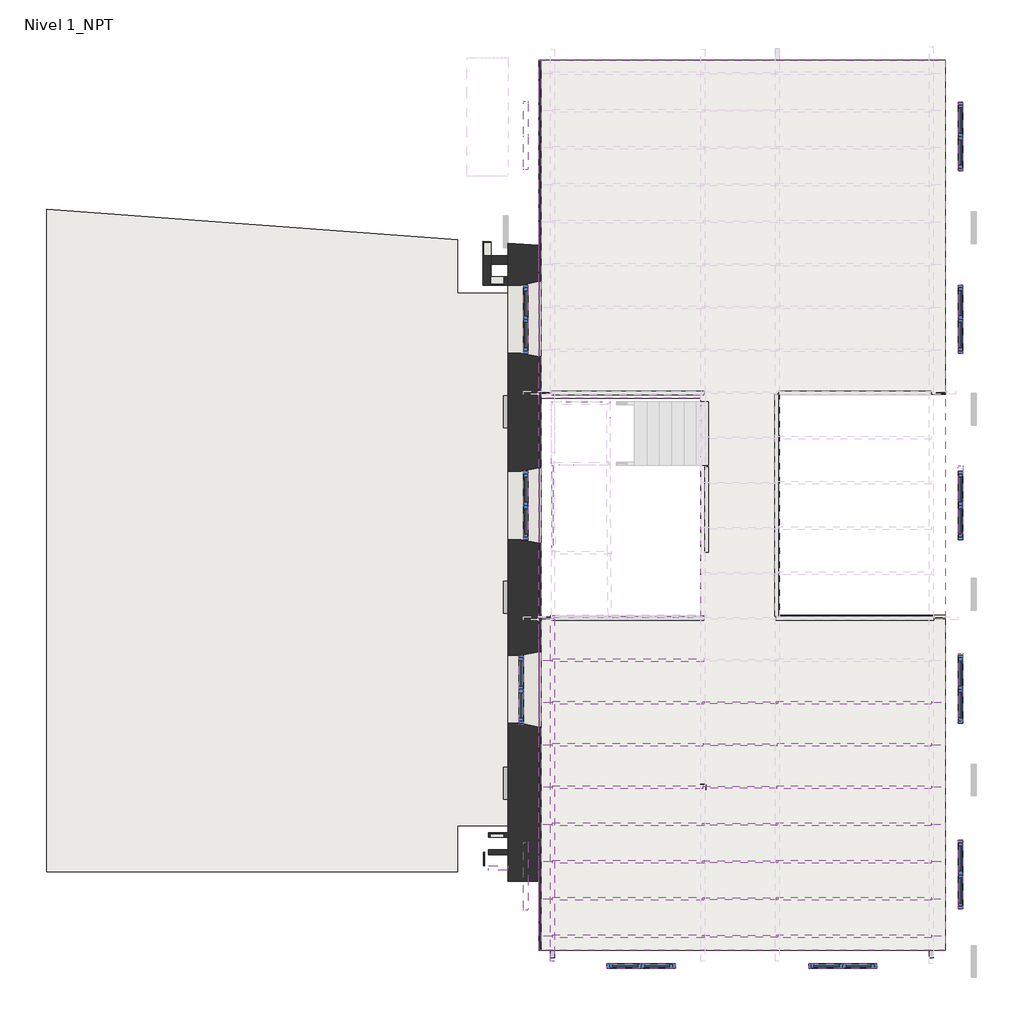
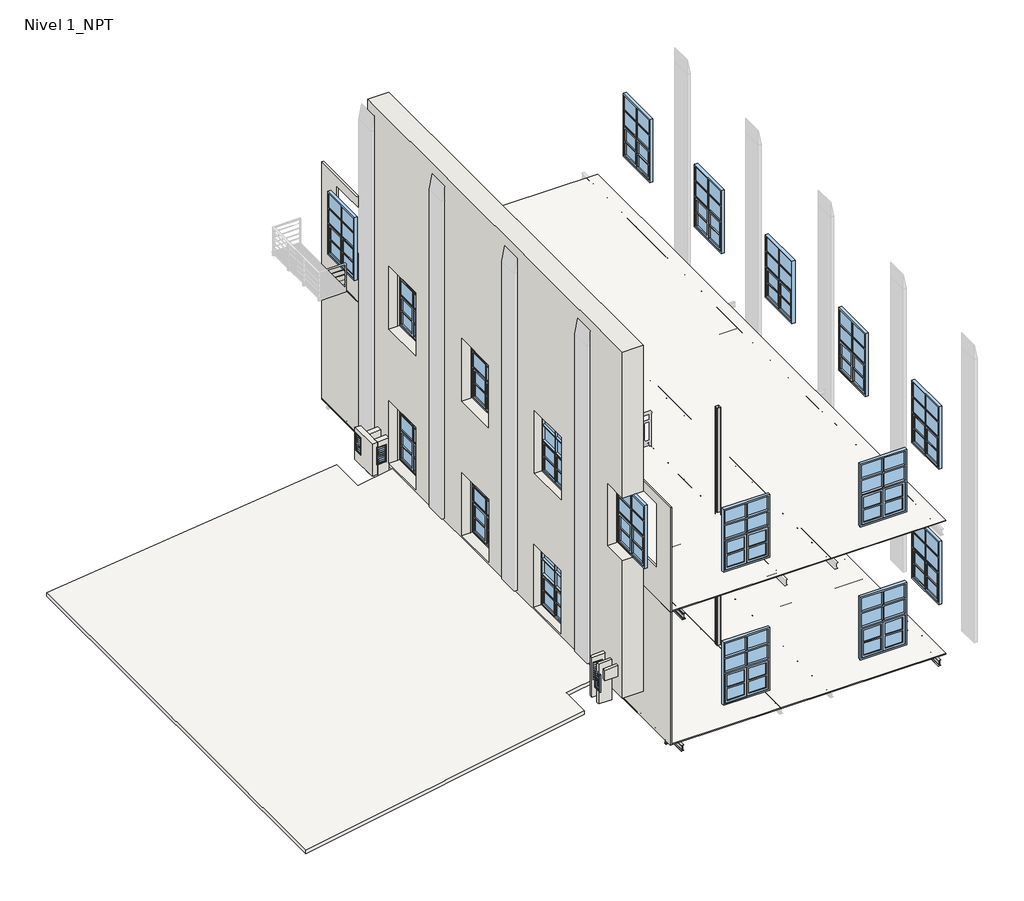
# One storey, part 1 of 6: 65 beams, 26 windows, 9 walls, 2 slabs, 1 column, 1 roof.
"""IFC4 building model written with IfcOpenShell, lengths in millimetres."""

from ifc_helpers import new_model, si_unit, frame, origin, place, context, project, spatial, polyline, outline, extrude, faceted_brep, transform, mapped, element, save
from components import beam_0fa59555, beam_4ebdabfa, est_perf_ace_est_perf_ace_652393f0, est_vi_ipn_140_83a7d586, est_vi_ipn_140_513cc523, est_vi_ipn_140_41f6773e, est_vi_ipn_140_ac4d03ab, ipn_140_a066fb9f, ipn_140_dce53db5, ipn_140_6146be9b, ipn_140_d8756bba, ipn_140_57c813fd, ipn_140_c3178bab, ipn_140_a4fef78c, ipn_140_1e7c6f62, ipn_140_43540bf7, ipn_140_55316688, ipn_140_ba8e37ef, ipn_140_681980e7, ipn_200_907417d8, ipn_200_73b08ae7, ipn_200_549c2b5a, ipn_80_bbd9ff88, ipn_80_60352559, ipn_80_ac8313dd, ipn_80_3470acd9, ipn_80_19f47b9d, ipn_80_ebfddedf, perfiles_escalera1_perfiles_escalera_c1f6a450, column_120_x_120shs_173fb2dc, window_49d07148, window_b09a553c, window_13db4c4f, window_c40e4f47

model = new_model("IFC4")

# Units and contexts
model_context = context("Model", 3, world=origin())
ifc_project = project(units=[si_unit("LENGTHUNIT", "METRE", prefix="MILLI")], contexts=[model_context])

# Site, building, storey
site = spatial("IfcSite", under=ifc_project)
building = spatial("IfcBuilding", under=site)
storey = spatial("IfcBuildingStorey", under=building, Name="Nivel 1_NPT", Elevation=4940.0)

# Beams
placement = place(None, origin())
beam_shape = beam_0fa59555(model_context)
element("IfcBeam", 1, ObjectType="Armazón estructural 2 : Armazón estructural 1", at=placement, inside=storey, context=model_context, shape_type="MappedRepresentation", body=[
    mapped(beam_shape, transform((0.0, 0.0, 0.0), x_axis=(1.0, 0.0, 0.0), y_axis=(0.0, 1.0, 0.0), z_axis=(0.0, 0.0, 1.0))),
])
beam_2_shape = beam_4ebdabfa(model_context)
element("IfcBeam", 2, ObjectType="Armazón estructural 8 : Armazón estructural 7", at=placement, inside=storey, context=model_context, shape_type="MappedRepresentation", body=[
    mapped(beam_2_shape, transform((0.0, 0.0, 0.0), x_axis=(1.0, 0.0, 0.0), y_axis=(0.0, 1.0, 0.0), z_axis=(0.0, 0.0, 1.0))),
])
est_perf_ace_est_perf_ace_shape = est_perf_ace_est_perf_ace_652393f0(model_context)
element("IfcBeam", 3, ObjectType="EST-PERF-Ace : EST-PERF-Ace", at=placement, inside=storey, context=model_context, shape_type="MappedRepresentation", body=[
    mapped(est_perf_ace_est_perf_ace_shape, transform((6334.8126262, 556.847353, 9500.0), x_axis=(0.0, 1.0, 0.0), y_axis=(-1.0, 0.0, 0.0), z_axis=(0.0, 0.0, 1.0))),
])
element("IfcBeam", 4, ObjectType="EST-PERF-Ace : EST-PERF-Ace", at=placement, inside=storey, context=model_context, shape_type="MappedRepresentation", body=[
    mapped(est_perf_ace_est_perf_ace_shape, transform((6334.8126262, -370.8993556, 9500.0), x_axis=(0.0, 1.0, 0.0), y_axis=(-1.0, 0.0, 0.0), z_axis=(0.0, 0.0, 1.0))),
])
element("IfcBeam", 5, ObjectType="EST-PERF-Ace : EST-PERF-Ace", at=placement, inside=storey, context=model_context, shape_type="MappedRepresentation", body=[
    mapped(est_perf_ace_est_perf_ace_shape, transform((6334.8126262, -1298.6460641, 9500.0), x_axis=(0.0, 1.0, 0.0), y_axis=(-1.0, 0.0, 0.0), z_axis=(0.0, 0.0, 1.0))),
])
element("IfcBeam", 6, ObjectType="EST-PERF-Ace : EST-PERF-Ace", at=placement, inside=storey, context=model_context, shape_type="MappedRepresentation", body=[
    mapped(est_perf_ace_est_perf_ace_shape, transform((6334.8126262, -2226.3927727, 9500.0), x_axis=(0.0, 1.0, 0.0), y_axis=(-1.0, 0.0, 0.0), z_axis=(0.0, 0.0, 1.0))),
])
element("IfcBeam", 7, ObjectType="EST-PERF-Ace : EST-PERF-Ace", at=placement, inside=storey, context=model_context, shape_type="MappedRepresentation", body=[
    mapped(est_perf_ace_est_perf_ace_shape, transform((6334.8126262, -3044.1427727, 9500.0), x_axis=(0.0, 1.0, 0.0), y_axis=(-1.0, 0.0, 0.0), z_axis=(0.0, 0.0, 1.0))),
])
element("IfcBeam", 8, ObjectType="EST-PERF-Ace : EST-PERF-Ace", at=placement, inside=storey, context=model_context, shape_type="MappedRepresentation", body=[
    mapped(est_perf_ace_est_perf_ace_shape, transform((6334.8126262, -3861.8927727, 9500.0), x_axis=(0.0, 1.0, 0.0), y_axis=(-1.0, 0.0, 0.0), z_axis=(0.0, 0.0, 1.0))),
])
element("IfcBeam", 9, ObjectType="EST-PERF-Ace : EST-PERF-Ace", at=placement, inside=storey, context=model_context, shape_type="MappedRepresentation", body=[
    mapped(est_perf_ace_est_perf_ace_shape, transform((6334.8126262, -4679.6427727, 9500.0), x_axis=(0.0, 1.0, 0.0), y_axis=(-1.0, 0.0, 0.0), z_axis=(0.0, 0.0, 1.0))),
])
element("IfcBeam", 10, ObjectType="EST-PERF-Ace : EST-PERF-Ace", at=placement, inside=storey, context=model_context, shape_type="MappedRepresentation", body=[
    mapped(est_perf_ace_est_perf_ace_shape, transform((6334.8126262, -5497.3927727, 9500.0), x_axis=(0.0, 1.0, 0.0), y_axis=(-1.0, 0.0, 0.0), z_axis=(0.0, 0.0, 1.0))),
])
element("IfcBeam", 11, ObjectType="EST-PERF-Ace : EST-PERF-Ace", at=placement, inside=storey, context=model_context, shape_type="MappedRepresentation", body=[
    mapped(est_perf_ace_est_perf_ace_shape, transform((14664.8126262, -5497.3927727, 9500.0), x_axis=(0.0, -1.0, 0.0), y_axis=(1.0, 0.0, 0.0), z_axis=(0.0, 0.0, 1.0))),
])
element("IfcBeam", 12, ObjectType="EST-PERF-Ace : EST-PERF-Ace", at=placement, inside=storey, context=model_context, shape_type="MappedRepresentation", body=[
    mapped(est_perf_ace_est_perf_ace_shape, transform((14664.8126262, -4679.6427727, 9500.0), x_axis=(0.0, -1.0, 0.0), y_axis=(1.0, 0.0, 0.0), z_axis=(0.0, 0.0, 1.0))),
])
element("IfcBeam", 13, ObjectType="EST-PERF-Ace : EST-PERF-Ace", at=placement, inside=storey, context=model_context, shape_type="MappedRepresentation", body=[
    mapped(est_perf_ace_est_perf_ace_shape, transform((14664.8126262, -3861.8927727, 9500.0), x_axis=(0.0, -1.0, 0.0), y_axis=(1.0, 0.0, 0.0), z_axis=(0.0, 0.0, 1.0))),
])
element("IfcBeam", 14, ObjectType="EST-PERF-Ace : EST-PERF-Ace", at=placement, inside=storey, context=model_context, shape_type="MappedRepresentation", body=[
    mapped(est_perf_ace_est_perf_ace_shape, transform((14664.8126262, -3044.1427727, 9500.0), x_axis=(0.0, -1.0, 0.0), y_axis=(1.0, 0.0, 0.0), z_axis=(0.0, 0.0, 1.0))),
])
element("IfcBeam", 15, ObjectType="EST-PERF-Ace : EST-PERF-Ace", at=placement, inside=storey, context=model_context, shape_type="MappedRepresentation", body=[
    mapped(est_perf_ace_est_perf_ace_shape, transform((14664.8126262, -2226.3927727, 9500.0), x_axis=(0.0, -1.0, 0.0), y_axis=(1.0, 0.0, 0.0), z_axis=(0.0, 0.0, 1.0))),
])
element("IfcBeam", 16, ObjectType="EST-PERF-Ace : EST-PERF-Ace", at=placement, inside=storey, context=model_context, shape_type="MappedRepresentation", body=[
    mapped(est_perf_ace_est_perf_ace_shape, transform((14664.8126262, -1298.6460641, 9500.0), x_axis=(0.0, -1.0, 0.0), y_axis=(1.0, 0.0, 0.0), z_axis=(0.0, 0.0, 1.0))),
])
element("IfcBeam", 17, ObjectType="EST-PERF-Ace : EST-PERF-Ace", at=placement, inside=storey, context=model_context, shape_type="MappedRepresentation", body=[
    mapped(est_perf_ace_est_perf_ace_shape, transform((14664.8126262, -370.8993556, 9500.0), x_axis=(0.0, -1.0, 0.0), y_axis=(1.0, 0.0, 0.0), z_axis=(0.0, 0.0, 1.0))),
])
est_vi_ipn_140_shape = est_vi_ipn_140_83a7d586(model_context)
element("IfcBeam", 18, ObjectType="EST-VI-PNI-Acero : EST-VI-IPN 140", at=placement, inside=storey, context=model_context, shape_type="MappedRepresentation", body=[
    mapped(est_vi_ipn_140_shape, transform((7973.3126262, -5497.3927727, 4840.0), x_axis=(1.0, 0.0, 0.0), y_axis=(0.0, 1.0, 0.0), z_axis=(0.0, 0.0, 1.0))),
])
est_vi_ipn_140_2_shape = est_vi_ipn_140_513cc523(model_context)
element("IfcBeam", 19, ObjectType="EST-VI-PNI-Acero : EST-VI-IPN 140", at=placement, inside=storey, context=model_context, shape_type="MappedRepresentation", body=[
    mapped(est_vi_ipn_140_2_shape, transform((7989.8126262, -5497.3927727, 9400.0), x_axis=(1.0, 0.0, 0.0), y_axis=(0.0, 1.0, 0.0), z_axis=(0.0, 0.0, 1.0))),
])
est_vi_ipn_140_3_shape = est_vi_ipn_140_41f6773e(model_context)
element("IfcBeam", 20, ObjectType="EST-VI-PNI-Acero : EST-VI-IPN 140", at=placement, inside=storey, context=model_context, shape_type="MappedRepresentation", body=[
    mapped(est_vi_ipn_140_3_shape, transform((12969.8126262, -5497.3927727, 9400.0), x_axis=(1.0, 0.0, 0.0), y_axis=(0.0, 1.0, 0.0), z_axis=(0.0, 0.0, 1.0))),
])
est_vi_ipn_140_4_shape = est_vi_ipn_140_ac4d03ab(model_context)
element("IfcBeam", 21, ObjectType="EST-VI-PNI-Acero : EST-VI-IPN 140", at=placement, inside=storey, context=model_context, shape_type="MappedRepresentation", body=[
    mapped(est_vi_ipn_140_4_shape, transform((12980.8126262, -5497.3927727, 4840.0), x_axis=(1.0, 0.0, 0.0), y_axis=(0.0, 1.0, 0.0), z_axis=(0.0, 0.0, 1.0))),
])
ipn_140_shape = ipn_140_a066fb9f(model_context)
element("IfcBeam", 22, ObjectType="IPN - Secciones en I con alas cónicas : IPN 140", at=placement, inside=storey, context=model_context, shape_type="MappedRepresentation", body=[
    mapped(ipn_140_shape, transform((13119.8126262, -370.8993556, 4840.0), x_axis=(1.0, 0.0, 0.0), y_axis=(0.0, 1.0, 0.0), z_axis=(0.0, 0.0, 1.0))),
])
element("IfcBeam", 23, ObjectType="IPN - Secciones en I con alas cónicas : IPN 140", at=placement, inside=storey, context=model_context, shape_type="MappedRepresentation", body=[
    mapped(ipn_140_shape, transform((13119.8126262, -3861.8927727, 4840.0), x_axis=(1.0, 0.0, 0.0), y_axis=(0.0, 1.0, 0.0), z_axis=(0.0, 0.0, 1.0))),
])
element("IfcBeam", 24, ObjectType="IPN - Secciones en I con alas cónicas : IPN 140", at=placement, inside=storey, context=model_context, shape_type="MappedRepresentation", body=[
    mapped(ipn_140_shape, transform((13119.8126262, -4679.6427727, 4840.0), x_axis=(1.0, 0.0, 0.0), y_axis=(0.0, 1.0, 0.0), z_axis=(0.0, 0.0, 1.0))),
])
ipn_140_2_shape = ipn_140_dce53db5(model_context)
element("IfcBeam", 25, ObjectType="IPN - Secciones en I con alas cónicas : IPN 140", at=placement, inside=storey, context=model_context, shape_type="MappedRepresentation", body=[
    mapped(ipn_140_2_shape, transform((7904.8126262, 556.847353, 4840.0), x_axis=(1.0, 0.0, 0.0), y_axis=(0.0, 1.0, 0.0), z_axis=(0.0, 0.0, 1.0))),
])
element("IfcBeam", 26, ObjectType="IPN - Secciones en I con alas cónicas : IPN 140", at=placement, inside=storey, context=model_context, shape_type="MappedRepresentation", body=[
    mapped(ipn_140_2_shape, transform((7904.8126262, -370.8993556, 4840.0), x_axis=(1.0, 0.0, 0.0), y_axis=(0.0, 1.0, 0.0), z_axis=(0.0, 0.0, 1.0))),
])
element("IfcBeam", 27, ObjectType="IPN - Secciones en I con alas cónicas : IPN 140", at=placement, inside=storey, context=model_context, shape_type="MappedRepresentation", body=[
    mapped(ipn_140_2_shape, transform((7904.8126262, -3861.8927727, 4840.0), x_axis=(1.0, 0.0, 0.0), y_axis=(0.0, 1.0, 0.0), z_axis=(0.0, 0.0, 1.0))),
])
element("IfcBeam", 28, ObjectType="IPN - Secciones en I con alas cónicas : IPN 140", at=placement, inside=storey, context=model_context, shape_type="MappedRepresentation", body=[
    mapped(ipn_140_2_shape, transform((7904.8126262, -4679.6427727, 4840.0), x_axis=(1.0, 0.0, 0.0), y_axis=(0.0, 1.0, 0.0), z_axis=(0.0, 0.0, 1.0))),
])
ipn_140_3_shape = ipn_140_6146be9b(model_context)
element("IfcBeam", 29, ObjectType="IPN - Secciones en I con alas cónicas : IPN 140", at=placement, inside=storey, context=model_context, shape_type="MappedRepresentation", body=[
    mapped(ipn_140_3_shape, transform((7904.8126262, -1298.6460641, 4840.0), x_axis=(1.0, 0.0, 0.0), y_axis=(0.0, 1.0, 0.0), z_axis=(0.0, 0.0, 1.0))),
])
ipn_140_4_shape = ipn_140_d8756bba(model_context)
element("IfcBeam", 30, ObjectType="IPN - Secciones en I con alas cónicas : IPN 140", at=placement, inside=storey, context=model_context, shape_type="MappedRepresentation", body=[
    mapped(ipn_140_4_shape, transform((13119.8126262, -1298.6460641, 4840.0), x_axis=(1.0, 0.0, 0.0), y_axis=(0.0, 1.0, 0.0), z_axis=(0.0, 0.0, 1.0))),
])
ipn_140_5_shape = ipn_140_57c813fd(model_context)
element("IfcBeam", 31, ObjectType="IPN - Secciones en I con alas cónicas : IPN 140", at=placement, inside=storey, context=model_context, shape_type="MappedRepresentation", body=[
    mapped(ipn_140_5_shape, transform((7904.8126262, -3044.1427727, 4840.0), x_axis=(1.0, 0.0, 0.0), y_axis=(0.0, 1.0, 0.0), z_axis=(0.0, 0.0, 1.0))),
])
ipn_140_6_shape = ipn_140_c3178bab(model_context)
element("IfcBeam", 32, ObjectType="IPN - Secciones en I con alas cónicas : IPN 140", at=placement, inside=storey, context=model_context, shape_type="MappedRepresentation", body=[
    mapped(ipn_140_6_shape, transform((13119.8126262, -3044.1427727, 4840.0), x_axis=(1.0, 0.0, 0.0), y_axis=(0.0, 1.0, 0.0), z_axis=(0.0, 0.0, 1.0))),
])
ipn_140_7_shape = ipn_140_a4fef78c(model_context)
element("IfcBeam", 33, ObjectType="IPN - Secciones en I con alas cónicas : IPN 140", at=placement, inside=storey, context=model_context, shape_type="MappedRepresentation", body=[
    mapped(ipn_140_7_shape, transform((12980.3951687, -2226.3927727, 4840.0), x_axis=(1.0, 0.0, 0.0), y_axis=(0.0, 1.0, 0.0), z_axis=(0.0, 0.0, 1.0))),
])
ipn_140_8_shape = ipn_140_1e7c6f62(model_context)
element("IfcBeam", 34, ObjectType="IPN - Secciones en I con alas cónicas : IPN 140", at=placement, inside=storey, context=model_context, shape_type="MappedRepresentation", body=[
    mapped(ipn_140_8_shape, transform((7973.3126262, -2226.3927727, 4840.0), x_axis=(1.0, 0.0, 0.0), y_axis=(0.0, 1.0, 0.0), z_axis=(0.0, 0.0, 1.0))),
])
ipn_140_9_shape = ipn_140_43540bf7(model_context)
element("IfcBeam", 35, ObjectType="IPN - Secciones en I con alas cónicas : IPN 140", at=placement, inside=storey, context=model_context, shape_type="MappedRepresentation", body=[
    mapped(ipn_140_9_shape, transform((12962.8126262, -2226.3927727, 9400.0), x_axis=(1.0, 0.0, 0.0), y_axis=(0.0, 1.0, 0.0), z_axis=(0.0, 0.0, 1.0))),
])
element("IfcBeam", 36, ObjectType="IPN - Secciones en I con alas cónicas : IPN 140", at=placement, inside=storey, context=model_context, shape_type="MappedRepresentation", body=[
    mapped(est_vi_ipn_140_2_shape, transform((7989.8126262, 556.847353, 9400.0), x_axis=(1.0, 0.0, 0.0), y_axis=(0.0, 1.0, 0.0), z_axis=(0.0, 0.0, 1.0))),
])
element("IfcBeam", 37, ObjectType="IPN - Secciones en I con alas cónicas : IPN 140", at=placement, inside=storey, context=model_context, shape_type="MappedRepresentation", body=[
    mapped(est_vi_ipn_140_2_shape, transform((7989.8126262, -370.8993556, 9400.0), x_axis=(1.0, 0.0, 0.0), y_axis=(0.0, 1.0, 0.0), z_axis=(0.0, 0.0, 1.0))),
])
element("IfcBeam", 38, ObjectType="IPN - Secciones en I con alas cónicas : IPN 140", at=placement, inside=storey, context=model_context, shape_type="MappedRepresentation", body=[
    mapped(est_vi_ipn_140_2_shape, transform((7989.8126262, -3044.1427727, 9400.0), x_axis=(1.0, 0.0, 0.0), y_axis=(0.0, 1.0, 0.0), z_axis=(0.0, 0.0, 1.0))),
])
element("IfcBeam", 39, ObjectType="IPN - Secciones en I con alas cónicas : IPN 140", at=placement, inside=storey, context=model_context, shape_type="MappedRepresentation", body=[
    mapped(est_vi_ipn_140_2_shape, transform((7989.8126262, -3861.8927727, 9400.0), x_axis=(1.0, 0.0, 0.0), y_axis=(0.0, 1.0, 0.0), z_axis=(0.0, 0.0, 1.0))),
])
element("IfcBeam", 40, ObjectType="IPN - Secciones en I con alas cónicas : IPN 140", at=placement, inside=storey, context=model_context, shape_type="MappedRepresentation", body=[
    mapped(est_vi_ipn_140_2_shape, transform((7989.8126262, -4679.6427727, 9400.0), x_axis=(1.0, 0.0, 0.0), y_axis=(0.0, 1.0, 0.0), z_axis=(0.0, 0.0, 1.0))),
])
ipn_140_10_shape = ipn_140_55316688(model_context)
element("IfcBeam", 41, ObjectType="IPN - Secciones en I con alas cónicas : IPN 140", at=placement, inside=storey, context=model_context, shape_type="MappedRepresentation", body=[
    mapped(ipn_140_10_shape, transform((7989.8126262, -2226.3927727, 9400.0), x_axis=(1.0, 0.0, 0.0), y_axis=(0.0, 1.0, 0.0), z_axis=(0.0, 0.0, 1.0))),
])
ipn_140_11_shape = ipn_140_ba8e37ef(model_context)
element("IfcBeam", 42, ObjectType="IPN - Secciones en I con alas cónicas : IPN 140", at=placement, inside=storey, context=model_context, shape_type="MappedRepresentation", body=[
    mapped(ipn_140_11_shape, transform((7989.8126262, -1298.6460641, 9400.0), x_axis=(1.0, 0.0, 0.0), y_axis=(0.0, 1.0, 0.0), z_axis=(0.0, 0.0, 1.0))),
])
element("IfcBeam", 43, ObjectType="IPN - Secciones en I con alas cónicas : IPN 140", at=placement, inside=storey, context=model_context, shape_type="MappedRepresentation", body=[
    mapped(est_vi_ipn_140_3_shape, transform((12969.8126262, -370.8993556, 9400.0), x_axis=(1.0, 0.0, 0.0), y_axis=(0.0, 1.0, 0.0), z_axis=(0.0, 0.0, 1.0))),
])
element("IfcBeam", 44, ObjectType="IPN - Secciones en I con alas cónicas : IPN 140", at=placement, inside=storey, context=model_context, shape_type="MappedRepresentation", body=[
    mapped(est_vi_ipn_140_3_shape, transform((12969.8126262, -3044.1427727, 9400.0), x_axis=(1.0, 0.0, 0.0), y_axis=(0.0, 1.0, 0.0), z_axis=(0.0, 0.0, 1.0))),
])
element("IfcBeam", 45, ObjectType="IPN - Secciones en I con alas cónicas : IPN 140", at=placement, inside=storey, context=model_context, shape_type="MappedRepresentation", body=[
    mapped(est_vi_ipn_140_3_shape, transform((12969.8126262, -3861.8927727, 9400.0), x_axis=(1.0, 0.0, 0.0), y_axis=(0.0, 1.0, 0.0), z_axis=(0.0, 0.0, 1.0))),
])
element("IfcBeam", 46, ObjectType="IPN - Secciones en I con alas cónicas : IPN 140", at=placement, inside=storey, context=model_context, shape_type="MappedRepresentation", body=[
    mapped(est_vi_ipn_140_3_shape, transform((12969.8126262, -4679.6427727, 9400.0), x_axis=(1.0, 0.0, 0.0), y_axis=(0.0, 1.0, 0.0), z_axis=(0.0, 0.0, 1.0))),
])
ipn_140_12_shape = ipn_140_681980e7(model_context)
element("IfcBeam", 47, ObjectType="IPN - Secciones en I con alas cónicas : IPN 140", at=placement, inside=storey, context=model_context, shape_type="MappedRepresentation", body=[
    mapped(ipn_140_12_shape, transform((12969.8126262, -1298.6460641, 9400.0), x_axis=(1.0, 0.0, 0.0), y_axis=(0.0, 1.0, 0.0), z_axis=(0.0, 0.0, 1.0))),
])
ipn_200_shape = ipn_200_907417d8(model_context)
element("IfcBeam", 48, ObjectType="IPN - Secciones en I con alas cónicas : IPN 200", at=placement, inside=storey, context=model_context, shape_type="MappedRepresentation", body=[
    mapped(ipn_200_shape, transform((6334.8126262, -2235.8997178, 4810.0), x_axis=(0.0, -1.0, 0.0), y_axis=(1.0, 0.0, 0.0), z_axis=(0.0, 0.0, 1.0))),
])
ipn_200_2_shape = ipn_200_73b08ae7(model_context)
element("IfcBeam", 49, ObjectType="IPN - Secciones en I con alas cónicas : IPN 200", at=placement, inside=storey, context=model_context, shape_type="MappedRepresentation", body=[
    mapped(ipn_200_2_shape, transform((6334.8126262, -2006.3993556, 9370.0), x_axis=(0.0, -1.0, 0.0), y_axis=(1.0, 0.0, 0.0), z_axis=(0.0, 0.0, 1.0))),
])
ipn_200_3_shape = ipn_200_549c2b5a(model_context)
element("IfcBeam", 50, ObjectType="IPN - Secciones en I con alas cónicas : IPN 200", at=placement, inside=storey, context=model_context, shape_type="MappedRepresentation", body=[
    mapped(ipn_200_3_shape, transform((14664.8126262, -2005.4059385, 4810.0), x_axis=(0.0, -1.0, 0.0), y_axis=(1.0, 0.0, 0.0), z_axis=(0.0, 0.0, 1.0))),
])
ipn_80_shape = ipn_80_bbd9ff88(model_context)
element("IfcBeam", 51, ObjectType="IPN - Secciones en I con alas cónicas : IPN 80", at=placement, inside=storey, context=model_context, shape_type="MappedRepresentation", body=[
    mapped(ipn_80_shape, transform((10459.8126262, -370.8993556, 4870.0), x_axis=(1.0, 0.0, 0.0), y_axis=(0.0, 1.0, 0.0), z_axis=(0.0, 0.0, 1.0))),
])
element("IfcBeam", 52, ObjectType="IPN - Secciones en I con alas cónicas : IPN 80", at=placement, inside=storey, context=model_context, shape_type="MappedRepresentation", body=[
    mapped(ipn_80_shape, transform((10459.8126262, -3861.8927727, 4870.0), x_axis=(1.0, 0.0, 0.0), y_axis=(0.0, 1.0, 0.0), z_axis=(0.0, 0.0, 1.0))),
])
element("IfcBeam", 53, ObjectType="IPN - Secciones en I con alas cónicas : IPN 80", at=placement, inside=storey, context=model_context, shape_type="MappedRepresentation", body=[
    mapped(ipn_80_shape, transform((10459.8126262, -4679.6427727, 4870.0), x_axis=(1.0, 0.0, 0.0), y_axis=(0.0, 1.0, 0.0), z_axis=(0.0, 0.0, 1.0))),
])
element("IfcBeam", 54, ObjectType="IPN - Secciones en I con alas cónicas : IPN 80", at=placement, inside=storey, context=model_context, shape_type="MappedRepresentation", body=[
    mapped(ipn_80_shape, transform((10459.8126262, -5497.3927727, 9430.0), x_axis=(1.0, 0.0, 0.0), y_axis=(0.0, 1.0, 0.0), z_axis=(0.0, 0.0, 1.0))),
])
element("IfcBeam", 55, ObjectType="IPN - Secciones en I con alas cónicas : IPN 80", at=placement, inside=storey, context=model_context, shape_type="MappedRepresentation", body=[
    mapped(ipn_80_shape, transform((10459.8126262, -370.8993556, 9430.0), x_axis=(1.0, 0.0, 0.0), y_axis=(0.0, 1.0, 0.0), z_axis=(0.0, 0.0, 1.0))),
])
element("IfcBeam", 56, ObjectType="IPN - Secciones en I con alas cónicas : IPN 80", at=placement, inside=storey, context=model_context, shape_type="MappedRepresentation", body=[
    mapped(ipn_80_shape, transform((10459.8126262, -3044.1427727, 9430.0), x_axis=(1.0, 0.0, 0.0), y_axis=(0.0, 1.0, 0.0), z_axis=(0.0, 0.0, 1.0))),
])
element("IfcBeam", 57, ObjectType="IPN - Secciones en I con alas cónicas : IPN 80", at=placement, inside=storey, context=model_context, shape_type="MappedRepresentation", body=[
    mapped(ipn_80_shape, transform((10459.8126262, -3861.8927727, 9430.0), x_axis=(1.0, 0.0, 0.0), y_axis=(0.0, 1.0, 0.0), z_axis=(0.0, 0.0, 1.0))),
])
element("IfcBeam", 58, ObjectType="IPN - Secciones en I con alas cónicas : IPN 80", at=placement, inside=storey, context=model_context, shape_type="MappedRepresentation", body=[
    mapped(ipn_80_shape, transform((10459.8126262, -4679.6427727, 9430.0), x_axis=(1.0, 0.0, 0.0), y_axis=(0.0, 1.0, 0.0), z_axis=(0.0, 0.0, 1.0))),
])
ipn_80_2_shape = ipn_80_60352559(model_context)
element("IfcBeam", 59, ObjectType="IPN - Secciones en I con alas cónicas : IPN 80", at=placement, inside=storey, context=model_context, shape_type="MappedRepresentation", body=[
    mapped(ipn_80_2_shape, transform((10459.8126262, -1298.6460641, 4870.0), x_axis=(1.0, 0.0, 0.0), y_axis=(0.0, 1.0, 0.0), z_axis=(0.0, 0.0, 1.0))),
])
element("IfcBeam", 60, ObjectType="IPN - Secciones en I con alas cónicas : IPN 80", at=placement, inside=storey, context=model_context, shape_type="MappedRepresentation", body=[
    mapped(ipn_80_2_shape, transform((10459.8126262, -1298.6460641, 9430.0), x_axis=(1.0, 0.0, 0.0), y_axis=(0.0, 1.0, 0.0), z_axis=(0.0, 0.0, 1.0))),
])
ipn_80_3_shape = ipn_80_ac8313dd(model_context)
element("IfcBeam", 61, ObjectType="IPN - Secciones en I con alas cónicas : IPN 80", at=placement, inside=storey, context=model_context, shape_type="MappedRepresentation", body=[
    mapped(ipn_80_3_shape, transform((10459.8126262, -3044.1427727, 4870.0), x_axis=(1.0, 0.0, 0.0), y_axis=(0.0, 1.0, 0.0), z_axis=(0.0, 0.0, 1.0))),
])
ipn_80_4_shape = ipn_80_3470acd9(model_context)
element("IfcBeam", 62, ObjectType="IPN - Secciones en I con alas cónicas : IPN 80", at=placement, inside=storey, context=model_context, shape_type="MappedRepresentation", body=[
    mapped(ipn_80_4_shape, transform((10452.8126262, -2226.3927727, 4870.0), x_axis=(1.0, 0.0, 0.0), y_axis=(0.0, 1.0, 0.0), z_axis=(0.0, 0.0, 1.0))),
])
ipn_80_5_shape = ipn_80_19f47b9d(model_context)
element("IfcBeam", 63, ObjectType="IPN - Secciones en I con alas cónicas : IPN 80", at=placement, inside=storey, context=model_context, shape_type="MappedRepresentation", body=[
    mapped(ipn_80_5_shape, transform((10452.8126262, -2226.3927727, 9430.0), x_axis=(1.0, 0.0, 0.0), y_axis=(0.0, 1.0, 0.0), z_axis=(0.0, 0.0, 1.0))),
])
ipn_80_6_shape = ipn_80_ebfddedf(model_context)
element("IfcBeam", 64, ObjectType="IPN - Secciones en I con alas cónicas : IPN 80", at=placement, inside=storey, context=model_context, shape_type="MappedRepresentation", body=[
    mapped(ipn_80_6_shape, transform((10452.8126262, -5497.3927727, 4870.0), x_axis=(1.0, 0.0, 0.0), y_axis=(0.0, 1.0, 0.0), z_axis=(0.0, 0.0, 1.0))),
])
perfiles_escalera1_perfiles_escalera_shape = perfiles_escalera1_perfiles_escalera_c1f6a450(model_context)
element("IfcBeam", 65, ObjectType="Perfiles escalera1 : Perfiles escalera", at=placement, inside=storey, context=model_context, shape_type="MappedRepresentation", body=[
    mapped(perfiles_escalera1_perfiles_escalera_shape, transform((0.0, 0.0, 0.0), x_axis=(1.0, 0.0, 0.0), y_axis=(0.0, 1.0, 0.0), z_axis=(0.0, 0.0, 1.0))),
])

# Column
column_120_x_120shs_shape = column_120_x_120shs_173fb2dc(model_context)
element("IfcColumn", 66, ObjectType="SHS-Sección hueca cuadrada-Pilar : 120 x 120SHS", at=placement, inside=storey, context=model_context, shape_type="MappedRepresentation", body=[
    mapped(column_120_x_120shs_shape, transform((9644.8126262, -2226.3927727, 0.0), x_axis=(1.0, 0.0, 0.0), y_axis=(0.0, 1.0, 0.0), z_axis=(0.0, 0.0, 1.0))),
])

# Roof
element("IfcRoof", 67, ObjectType="ARQ-CU-EX-12-Iso", at=placement, inside=storey, context=model_context, shape_type="Brep", body=[
    faceted_brep([(4244.8126262, -4086.3927727, 5677.3285036), (-4785.1873738, -4086.3927727, 4051.9285036), (-4785.1873738, -4086.3927727, 3930.0), (4244.8126262, -4086.3927727, 5555.4), (5354.2897792, 8623.6072273, 5877.0343912), (5354.2897792, -3076.3927727, 5877.0343912), (5354.2897792, -3076.3927727, 5755.1058875), (5354.2897792, 8623.6072273, 5755.1058875), (-4785.1873738, 10465.4751074, 3930.0), (4244.8126262, 9804.4316627, 5555.4), (4244.8126262, 8623.6072273, 5555.4), (4244.8126262, -3076.3927727, 5555.4), (4244.8126262, -3076.3927727, 5677.3285036), (4244.8126262, 8623.6072273, 5677.3285036), (4244.8126262, 9804.4316627, 5677.3285036), (-4785.1873738, 10465.4751074, 4051.9285036)], [[[0, 1, 2, 3]], [[4, 5, 6, 7]], [[3, 2, 8, 9, 10, 7, 6, 11]], [[1, 0, 12, 5, 4, 13, 14, 15]], [[2, 1, 15, 8]], [[15, 14, 9, 8]], [[12, 0, 3, 11]], [[5, 12, 11, 6]], [[14, 13, 10, 9]], [[13, 4, 7, 10]]]),
])

# Slabs
element("IfcSlab", 68, ObjectType="ARQ-SU-3-Mad", at=placement, inside=storey, context=model_context, shape_type="SweptSolid", body=[
    extrude(outline(polyline([(14964.8126262, 13743.6072273), (14964.8126262, 6401.6673521), (11321.1502157, 6401.6673521), (11321.1502157, 1552.7456843), (14964.8126262, 1552.7456843), (14964.8126262, -5806.3671234), (6034.2897792, -5806.3671234), (6034.2897792, 1509.5940615), (9602.2897792, 1509.5940615), (9602.2897792, 6319.8022524), (6034.2897792, 6319.8826005), (6034.2897792, 13743.6072273), (14964.8126262, 13743.6072273)])), frame((0.0, 0.0, 4910.0), z_axis=(0.0, 0.0, 1.0), x_axis=(1.0, 0.0, 0.0)), (0.0, 0.0, 1.0), 30.0),
])
element("IfcSlab", 69, ObjectType="ARQ-SU-3-Mad", at=placement, inside=storey, context=model_context, shape_type="SweptSolid", body=[
    extrude(outline(polyline([(14964.8126262, 13743.6072273), (14964.8126262, -5806.3671234), (6034.2897792, -5806.3671234), (6034.2897792, 1509.5940615), (9599.8126262, 1509.5940615), (9599.8126262, 6319.8023082), (6034.2897792, 6319.8826005), (6034.2897792, 13743.6072273), (14964.8126262, 13743.6072273)])), frame((0.0, 0.0, 9470.0), z_axis=(0.0, 0.0, 1.0), x_axis=(1.0, 0.0, 0.0)), (0.0, 0.0, 1.0), 30.0),
])

# Walls
element("IfcWall", 70, ObjectType="ARQ-MU-EX-68-Lad", at=placement, inside=storey, context=model_context, shape_type="Brep", body=[
    faceted_brep([(5354.2897792, 9723.2121057, 5840.0), (5354.2897792, -4296.3927727, 5840.0), (5354.2897792, -4296.3927727, 10550.0), (5354.2897792, -3436.3927727, 10550.0), (5354.2897792, -3436.3927727, 12700.0), (5354.2897792, -4296.3927727, 12700.0), (5354.2897792, -4296.3927727, 17700.0), (5354.2897792, 9999.1250966, 17700.0), (5354.2897792, 9999.1250966, 7400.0), (5354.2897792, 9723.2121057, 7400.0), (5354.2897792, -827.1199431, 8100.0), (5354.2897792, -827.1199431, 5950.0), (5354.2897792, 672.8800569, 5950.0), (5354.2897792, 672.8800569, 8100.0), (5354.2897792, 4712.8647428, 5950.0), (5354.2897792, 4712.8647428, 8100.0), (5354.2897792, 3212.8647428, 8100.0), (5354.2897792, 3212.8647428, 5950.0), (5354.2897792, 4723.6072273, 10550.0), (5354.2897792, 4723.6072273, 12700.0), (5354.2897792, 3223.6072273, 12700.0), (5354.2897792, 3223.6072273, 10550.0), (5354.2897792, -856.3927727, 12700.0), (5354.2897792, -856.3927727, 10550.0), (5354.2897792, 643.6072273, 10550.0), (5354.2897792, 643.6072273, 12700.0), (5354.2897792, 8803.6072273, 10550.0), (5354.2897792, 8803.6072273, 12700.0), (5354.2897792, 7303.6072273, 12700.0), (5354.2897792, 7303.6072273, 10550.0), (5354.2897792, 8803.6072273, 5950.0), (5354.2897792, 8803.6072273, 6819.9), (5354.2897792, 8803.6072273, 8100.0), (5354.2897792, 7303.6072273, 8100.0), (5354.2897792, 7303.6072273, 5950.0), (6034.2897792, -4296.3927727, 5840.0), (6034.2897792, 8713.6072273, 5840.0), (6034.2897792, 9673.4325329, 5840.0), (6034.2897792, 9673.4325329, 7400.0), (6034.2897792, 9999.1250966, 7400.0), (6034.2897792, 9999.1250966, 17700.0), (6034.2897792, -4296.3927727, 17700.0), (6034.2897792, -4296.3927727, 12700.0), (6034.2897792, -3356.5000233, 12700.0), (6034.2897792, -3356.5000233, 10550.0), (6034.2897792, -4296.3927727, 10550.0), (6034.2897792, 4803.4999767, 12700.0), (6034.2897792, 4803.4999767, 10550.0), (6034.2897792, 3143.714478, 10550.0), (6034.2897792, 3143.714478, 12700.0), (6034.2897792, 723.4999767, 12700.0), (6034.2897792, 723.4999767, 10550.0), (6034.2897792, -936.285522, 10550.0), (6034.2897792, -936.285522, 12700.0), (6034.2897792, 8883.4999767, 8100.0), (6034.2897792, 8883.4999767, 5950.0), (6034.2897792, 7223.714478, 5950.0), (6034.2897792, 7223.714478, 8100.0), (6034.2897792, 4792.7574921, 8100.0), (6034.2897792, 4792.7574921, 5950.0), (6034.2897792, 3132.9719934, 5950.0), (6034.2897792, 3132.9719934, 8100.0), (6034.2897792, 752.7728062, 8100.0), (6034.2897792, 752.7728062, 5950.0), (6034.2897792, -907.0126924, 5950.0), (6034.2897792, -907.0126924, 8100.0), (6034.2897792, 7223.714478, 12700.0), (6034.2897792, 8883.4999767, 12700.0), (6034.2897792, 8883.4999767, 10550.0), (6034.2897792, 7223.714478, 10550.0), (5644.8126262, -827.1199431, 8100.0), (5644.8126262, -827.1199431, 5950.0), (5644.8126262, 672.8800569, 8100.0), (5644.8126262, 4712.8647428, 8100.0), (5644.8126262, 3212.8647428, 8100.0), (5644.8126262, 8803.6072273, 8100.0), (5644.8126262, 7303.6072273, 8100.0), (5644.8126262, 672.8800569, 5950.0), (5644.8126262, 4712.8647428, 5950.0), (5644.8126262, 3212.8647428, 5950.0), (5644.8126262, 8803.6072273, 5950.0), (5644.8126262, 7303.6072273, 5950.0), (5644.8126262, -3436.3927727, 10550.0), (5644.8126262, -3436.3927727, 12700.0), (5644.8126262, 4723.6072273, 12700.0), (5644.8126262, 3223.6072273, 12700.0), (5644.8126262, 643.6072273, 12700.0), (5644.8126262, -856.3927727, 12700.0), (5644.8126262, 8803.6072273, 12700.0), (5644.8126262, 7303.6072273, 12700.0), (5644.8126262, 3223.6072273, 10550.0), (5644.8126262, 4723.6072273, 10550.0), (5644.8126262, -856.3927727, 10550.0), (5644.8126262, 643.6072273, 10550.0), (5644.8126262, 8803.6072273, 10550.0), (5644.8126262, 7303.6072273, 10550.0)], [[[0, 1, 2, 3, 4, 5, 6, 7, 8, 9], [10, 11, 12, 13], [14, 15, 16, 17], [18, 19, 20, 21], [22, 23, 24, 25], [26, 27, 28, 29], [30, 31, 32, 33, 34]], [[35, 36, 37, 38, 39, 40, 41, 42, 43, 44, 45], [46, 47, 48, 49], [50, 51, 52, 53], [54, 55, 56, 57], [58, 59, 60, 61], [62, 63, 64, 65], [66, 67, 68, 69]], [[0, 9, 38, 37]], [[11, 10, 70, 71]], [[10, 13, 72, 62, 65, 70]], [[16, 15, 73, 58, 61, 74]], [[33, 32, 75, 54, 57, 76]], [[13, 12, 77, 72]], [[15, 14, 78, 73]], [[17, 16, 74, 79]], [[32, 31, 30, 80, 75]], [[34, 33, 76, 81]], [[12, 11, 71, 64, 63, 77]], [[14, 17, 79, 60, 59, 78]], [[30, 34, 81, 56, 55, 80]], [[4, 3, 82, 83]], [[5, 4, 83, 43, 42]], [[20, 19, 84, 46, 49, 85]], [[22, 25, 86, 50, 53, 87]], [[88, 67, 66, 89, 28, 27]], [[3, 2, 45, 44, 82]], [[18, 21, 90, 48, 47, 91]], [[24, 23, 92, 52, 51, 93]], [[68, 94, 26, 29, 95, 69]], [[1, 0, 37, 36, 35]], [[7, 6, 41, 40]], [[8, 7, 40, 39]], [[8, 39, 38, 9]], [[41, 6, 5, 42]], [[1, 35, 45, 2]], [[19, 18, 91, 84]], [[21, 20, 85, 90]], [[23, 22, 87, 92]], [[25, 24, 93, 86]], [[67, 88, 94, 68]], [[89, 66, 69, 95]], [[46, 84, 91, 47]], [[85, 49, 48, 90]], [[50, 86, 93, 51]], [[87, 53, 52, 92]], [[43, 83, 82, 44]], [[54, 75, 80, 55]], [[76, 57, 56, 81]], [[58, 73, 78, 59]], [[74, 61, 60, 79]], [[62, 72, 77, 63]], [[70, 65, 64, 71]], [[26, 94, 88, 27]], [[28, 89, 95, 29]]]),
])
element("IfcWall", 71, ObjectType="ARQ-MU-IN-18-Gen", at=placement, inside=storey, context=model_context, shape_type="SweptSolid", body=[
    extrude(outline(polyline([(6797.7, 4984.2897792), (5440.0, 4984.2897792), (5440.0, 5354.2897792), (6819.9, 5354.2897792), (6797.7, 4984.2897792)])), frame((0.0, 9263.2121057, 0.0), z_axis=(0.0, 1.0, 0.0), x_axis=(0.0, 0.0, 1.0)), (0.0, 0.0, 1.0), 180.0),
])
element("IfcWall", 72, ObjectType="ARQ-MU-IN-18-Gen", at=placement, inside=storey, context=model_context, shape_type="Brep", body=[
    faceted_brep([(4984.2897792, 8803.6072273, 5704.6831466), (4984.2897792, 9750.2980498, 5704.6831466), (4984.2897792, 9750.2980498, 6797.7), (4984.2897792, 9443.2121057, 6797.7), (4984.2897792, 9263.2121057, 6797.7), (4984.2897792, 8983.6072273, 6797.7), (4984.2897792, 8803.6072273, 6797.7), (4984.2897792, 8803.6072273, 6630.6494835), (4984.2897792, 8983.6072273, 6630.6494835), (4984.2897792, 8983.6072273, 6030.6494835), (4984.2897792, 8803.6072273, 6030.6494835), (4984.2897792, 9443.6072273, 6030.6494835), (4984.2897792, 9443.6072273, 6630.6494835), (4984.2897792, 9743.6072273, 6630.6494835), (4984.2897792, 9743.6072273, 6030.6494835), (4804.2897792, 9763.4749955, 5704.6831466), (4804.2897792, 8803.6072273, 5704.6831466), (4804.2897792, 8803.6072273, 5890.0), (4804.2897792, 8803.6072273, 5950.0), (4804.2897792, 8803.6072273, 6786.9), (4804.2897792, 9763.4749955, 6786.9), (4804.2897792, 9443.6072273, 6030.6494835), (4804.2897792, 9743.6072273, 6030.6494835), (4804.2897792, 9743.6072273, 6630.6494835), (4804.2897792, 9443.6072273, 6630.6494835), (4964.2897792, 8803.6072273, 6030.6494835), (4964.2897792, 8803.6072273, 6630.6494835), (4964.2897792, 8983.6072273, 6630.6494835), (4964.2897792, 8983.6072273, 6030.6494835)], [[[0, 1, 2, 3, 4, 5, 6, 7, 8, 9, 10], [11, 12, 13, 14]], [[15, 16, 17, 18, 19, 20], [21, 22, 23, 24]], [[1, 0, 16, 15]], [[2, 1, 15, 20]], [[6, 5, 4, 3, 2, 20, 19]], [[12, 11, 21, 24]], [[13, 12, 24, 23]], [[14, 13, 23, 22]], [[11, 14, 22, 21]], [[16, 0, 10, 25, 26, 7, 6, 19, 18, 17]], [[27, 28, 9, 8]], [[26, 27, 8, 7]], [[28, 27, 26, 25]], [[28, 25, 10, 9]]]),
])
element("IfcWall", 73, ObjectType="ARQ-MU-IN-10-Ye-T8", at=placement, inside=storey, context=model_context, shape_type="SweptSolid", body=[
    extrude(outline(polyline([(5440.0, 4924.2897792), (5440.0, 5354.2897792), (6819.8561294, 5354.2897792), (6794.0561294, 4924.2897792), (5440.0, 4924.2897792)])), frame((0.0, -3706.3927727, 0.0), z_axis=(0.0, 1.0, 0.0), x_axis=(0.0, 0.0, 1.0)), (0.0, 0.0, 1.0), 100.0),
])
element("IfcWall", 74, ObjectType="ARQ-RE-IN-5-Ye-M2", at=placement, inside=storey, context=model_context, shape_type="SweptSolid", body=[
    extrude(outline(polyline([(13743.6072273, 4910.0), (2837.6072273, 4910.0), (2837.6072273, 5310.0), (2037.6072273, 5310.0), (2037.6072273, 4910.0), (-5806.3671234, 4910.0), (-5806.3671234, 9470.0), (13743.6072273, 9470.0), (13743.6072273, 4910.0)]), holes=[polyline([(-907.0126924, 5950.0), (752.7728062, 5950.0), (752.7728062, 8100.0), (-907.0126924, 8100.0), (-907.0126924, 5950.0)]), polyline([(3132.9719934, 5950.0), (4792.7574921, 5950.0), (4792.7574921, 8100.0), (3132.9719934, 8100.0), (3132.9719934, 5950.0)]), polyline([(8883.4999767, 5950.0), (8883.4999767, 8100.0), (7223.714478, 8100.0), (7223.714478, 5950.0), (8883.4999767, 5950.0)])]), frame((6034.2897792, 0.0, 0.0), z_axis=(1.0, 0.0, 0.0), x_axis=(0.0, 1.0, 0.0)), (0.0, 0.0, 1.0), 50.0),
])
element("IfcWall", 75, ObjectType="ARQ-RE-IN-5-Ye-M2", at=placement, inside=storey, context=model_context, shape_type="SweptSolid", body=[
    extrude(outline(polyline([(13743.6072273, 9470.0), (-5806.3671234, 9470.0), (-5806.3671234, 13045.7104289), (13743.6072273, 13045.7104289), (13743.6072273, 9470.0)]), holes=[polyline([(4803.4999767, 12700.0), (3143.714478, 12700.0), (3143.714478, 10550.0), (4803.4999767, 10550.0), (4803.4999767, 12700.0)]), polyline([(11258.0255104, 10550.0), (12917.8110091, 10550.0), (12917.8110091, 12700.0), (11258.0255104, 12700.0), (11258.0255104, 10550.0)]), polyline([(8883.4999767, 12700.0), (7223.714478, 12700.0), (7223.714478, 10550.0), (8883.4999767, 10550.0), (8883.4999767, 12700.0)]), polyline([(-936.285522, 10550.0), (723.4999767, 10550.0), (723.4999767, 12700.0), (-936.285522, 12700.0), (-936.285522, 10550.0)]), polyline([(-5016.285522, 12700.0), (-5016.285522, 10550.0), (-3356.5000233, 10550.0), (-3356.5000233, 12700.0), (-5016.285522, 12700.0)])]), frame((6034.2897792, 0.0, 0.0), z_axis=(1.0, 0.0, 0.0), x_axis=(0.0, 1.0, 0.0)), (0.0, 0.0, 1.0), 50.0),
])
element("IfcWall", 76, ObjectType="ARQ-MU-IN-10-Ye-T8", at=placement, inside=storey, context=model_context, shape_type="Brep", body=[
    faceted_brep([(4924.2897792, -4056.3927727, 6450.0), (5354.2897792, -4056.3927727, 6450.0), (5354.2897792, -4056.3927727, 6819.8561294), (4924.2897792, -4056.3927727, 6794.0561294), (4924.2897792, -3956.3927727, 6450.0), (4924.2897792, -3956.3927727, 6624.5951745), (4924.2897792, -3956.3927727, 6794.0561294), (5354.2897792, -3956.3927727, 6819.8561294), (5354.2897792, -3956.3927727, 6450.0)], [[[0, 1, 2, 3]], [[4, 5, 6, 7, 8]], [[1, 0, 4, 8]], [[0, 3, 6, 5, 4]], [[3, 2, 7, 6]], [[2, 1, 8, 7]]]),
])
element("IfcWall", 77, ObjectType="ARQ-MU-IN-18-Gen", at=placement, inside=storey, context=model_context, shape_type="Brep", body=[
    faceted_brep([(4984.2897792, 8803.6072273, 5440.0), (5354.2897792, 8803.6072273, 5440.0), (5354.2897792, 8803.6072273, 5950.0), (5354.2897792, 8803.6072273, 6819.9), (4984.2897792, 8803.6072273, 6797.7), (4984.2897792, 8803.6072273, 6630.6494835), (5264.2897792, 8803.6072273, 6630.6494835), (5264.2897792, 8803.6072273, 6030.6494835), (4984.2897792, 8803.6072273, 6030.6494835), (4984.2897792, 8803.6072273, 5704.6831466), (5354.2897792, 8983.6072273, 5440.0), (4984.2897792, 8983.6072273, 5440.0), (4984.2897792, 8983.6072273, 6030.6494835), (5264.2897792, 8983.6072273, 6030.6494835), (5264.2897792, 8983.6072273, 6630.6494835), (4984.2897792, 8983.6072273, 6630.6494835), (4984.2897792, 8983.6072273, 6797.7), (5354.2897792, 8983.6072273, 6819.9)], [[[0, 1, 2, 3, 4, 5, 6, 7, 8, 9]], [[10, 11, 12, 13, 14, 15, 16, 17]], [[1, 0, 11, 10]], [[4, 3, 17, 16]], [[1, 10, 17, 3, 2]], [[11, 0, 9, 8, 12]], [[4, 16, 15, 5]], [[13, 7, 6, 14]], [[14, 6, 5, 15]], [[7, 13, 12, 8]]]),
])
element("IfcWall", 78, ObjectType="ARQ-MU-IN-10-Ye-T8", at=placement, inside=storey, context=model_context, shape_type="SweptSolid", body=[
    extrude(outline(polyline([(5440.0, 4924.2897792), (5440.0, 5354.2897792), (6819.8561294, 5354.2897792), (6794.0561294, 4924.2897792), (5440.0, 4924.2897792)]), holes=[polyline([(6024.5951745, 4964.2897792), (6624.5951745, 4964.2897792), (6624.5951745, 5264.2897792), (6024.5951745, 5264.2897792), (6024.5951745, 4964.2897792)])]), frame((0.0, -3326.3927727, 0.0), z_axis=(0.0, 1.0, 0.0), x_axis=(0.0, 0.0, 1.0)), (0.0, 0.0, 1.0), 100.0),
])

# Windows
window_shape = window_49d07148(model_context)
element("IfcWindow", 79, ObjectType="ARQ-VE-EX-215x170-Ace : ARQ-VE-EX-215x170-Ace", at=placement, inside=storey, context=model_context, shape_type="MappedRepresentation", body=[
    mapped(window_shape, transform((12714.8126262, -6106.3671234, 4940.0), x_axis=(-1.0, 0.0, 0.0), y_axis=(0.0, -1.0, 0.0), z_axis=(0.0, 0.0, 1.0))),
])
element("IfcWindow", 80, ObjectType="ARQ-VE-EX-215x170-Ace : ARQ-VE-EX-215x170-Ace", at=placement, inside=storey, context=model_context, shape_type="MappedRepresentation", body=[
    mapped(window_shape, transform((8284.8126262, -6106.3671234, 4940.0), x_axis=(-1.0, 0.0, 0.0), y_axis=(0.0, -1.0, 0.0), z_axis=(0.0, 0.0, 1.0))),
])
element("IfcWindow", 81, ObjectType="ARQ-VE-EX-215x170-Ace : ARQ-VE-EX-215x170-Ace", at=placement, inside=storey, context=model_context, shape_type="MappedRepresentation", body=[
    mapped(window_shape, transform((12714.8126262, -6106.3671234, 9500.0), x_axis=(-1.0, 0.0, 0.0), y_axis=(0.0, -1.0, 0.0), z_axis=(0.0, 0.0, 1.0))),
])
element("IfcWindow", 82, ObjectType="ARQ-VE-EX-215x170-Ace : ARQ-VE-EX-215x170-Ace", at=placement, inside=storey, context=model_context, shape_type="MappedRepresentation", body=[
    mapped(window_shape, transform((8284.8126262, -6106.3671234, 9500.0), x_axis=(-1.0, 0.0, 0.0), y_axis=(0.0, -1.0, 0.0), z_axis=(0.0, 0.0, 1.0))),
])
element("IfcWindow", 83, ObjectType="ARQ-VE-EX-215x170-Ace : ARQ-VE-EX-215x170-Ace", at=placement, inside=storey, context=model_context, shape_type="MappedRepresentation", body=[
    mapped(window_shape, transform((15254.8126262, 3962.6505557, 4900.0), x_axis=(0.0, -1.0, 0.0), y_axis=(1.0, 0.0, 0.0), z_axis=(0.0, 0.0, 1.0))),
])
element("IfcWindow", 84, ObjectType="ARQ-VE-EX-215x170-Ace : ARQ-VE-EX-215x170-Ace", at=placement, inside=storey, context=model_context, shape_type="MappedRepresentation", body=[
    mapped(window_shape, transform((15254.8126262, -4145.4361003, 4900.0), x_axis=(0.0, -1.0, 0.0), y_axis=(1.0, 0.0, 0.0), z_axis=(0.0, 0.0, 1.0))),
])
element("IfcWindow", 85, ObjectType="ARQ-VE-EX-215x170-Ace : ARQ-VE-EX-215x170-Ace", at=placement, inside=storey, context=model_context, shape_type="MappedRepresentation", body=[
    mapped(window_shape, transform((15254.8126262, -76.3927727, 4900.0), x_axis=(0.0, -1.0, 0.0), y_axis=(1.0, 0.0, 0.0), z_axis=(0.0, 0.0, 1.0))),
])
element("IfcWindow", 86, ObjectType="ARQ-VE-EX-215x170-Ace : ARQ-VE-EX-215x170-Ace", at=placement, inside=storey, context=model_context, shape_type="MappedRepresentation", body=[
    mapped(window_shape, transform((15254.8126262, 8054.5638997, 4900.0), x_axis=(0.0, -1.0, 0.0), y_axis=(1.0, 0.0, 0.0), z_axis=(0.0, 0.0, 1.0))),
])
element("IfcWindow", 87, ObjectType="ARQ-VE-EX-215x170-Ace : ARQ-VE-EX-215x170-Ace", at=placement, inside=storey, context=model_context, shape_type="MappedRepresentation", body=[
    mapped(window_shape, transform((15254.8126262, 4079.5638997, 9530.0), x_axis=(0.0, -1.0, 0.0), y_axis=(1.0, 0.0, 0.0), z_axis=(0.0, 0.0, 1.0))),
])
element("IfcWindow", 88, ObjectType="ARQ-VE-EX-215x170-Ace : ARQ-VE-EX-215x170-Ace", at=placement, inside=storey, context=model_context, shape_type="MappedRepresentation", body=[
    mapped(window_shape, transform((15254.8126262, -4145.4361003, 9530.0), x_axis=(0.0, -1.0, 0.0), y_axis=(1.0, 0.0, 0.0), z_axis=(0.0, 0.0, 1.0))),
])
element("IfcWindow", 89, ObjectType="ARQ-VE-EX-215x170-Ace : ARQ-VE-EX-215x170-Ace", at=placement, inside=storey, context=model_context, shape_type="MappedRepresentation", body=[
    mapped(window_shape, transform((15254.8126262, -32.9361003, 9530.0), x_axis=(0.0, -1.0, 0.0), y_axis=(1.0, 0.0, 0.0), z_axis=(0.0, 0.0, 1.0))),
])
element("IfcWindow", 90, ObjectType="ARQ-VE-EX-215x170-Ace : ARQ-VE-EX-215x170-Ace", at=placement, inside=storey, context=model_context, shape_type="MappedRepresentation", body=[
    mapped(window_shape, transform((15254.8126262, 8054.5638997, 9530.0), x_axis=(0.0, -1.0, 0.0), y_axis=(1.0, 0.0, 0.0), z_axis=(0.0, 0.0, 1.0))),
])
window_2_shape = window_b09a553c(model_context)
element("IfcWindow", 91, ObjectType="ARQ-VE-EX-215x170-Ace : ARQ-VE-EX-215x170-Ace", at=placement, inside=storey, context=model_context, shape_type="MappedRepresentation", body=[
    mapped(window_2_shape, transform((15254.8126262, 12064.5638997, 4900.0), x_axis=(0.0, 1.0, 0.0), y_axis=(-1.0, 0.0, 0.0), z_axis=(0.0, 0.0, 1.0))),
])
element("IfcWindow", 92, ObjectType="ARQ-VE-EX-215x170-Ace : ARQ-VE-EX-215x170-Ace", at=placement, inside=storey, context=model_context, shape_type="MappedRepresentation", body=[
    mapped(window_2_shape, transform((15254.8126262, 12064.5638997, 9530.0), x_axis=(0.0, 1.0, 0.0), y_axis=(-1.0, 0.0, 0.0), z_axis=(0.0, 0.0, 1.0))),
])
element("IfcWindow", 93, ObjectType="ARQ-VE-EX-215x170-Ace : ARQ-VE-EX-215x170-Ace", at=placement, inside=storey, context=model_context, shape_type="MappedRepresentation", body=[
    mapped(window_shape, transform((5694.2897792, -77.1199431, 4900.0), x_axis=(0.0, 1.0, 0.0), y_axis=(-1.0, 0.0, 0.0), z_axis=(0.0, 0.0, 1.0))),
])
element("IfcWindow", 94, ObjectType="ARQ-VE-EX-215x170-Ace : ARQ-VE-EX-215x170-Ace", at=placement, inside=storey, context=model_context, shape_type="MappedRepresentation", body=[
    mapped(window_shape, transform((5694.2897792, 3962.8647428, 4900.0), x_axis=(0.0, -1.0, 0.0), y_axis=(1.0, 0.0, 0.0), z_axis=(0.0, 0.0, 1.0))),
])
element("IfcWindow", 95, ObjectType="ARQ-VE-EX-215x170-Ace : ARQ-VE-EX-215x170-Ace", at=placement, inside=storey, context=model_context, shape_type="MappedRepresentation", body=[
    mapped(window_shape, transform((5694.2897792, 8053.6072273, 4900.0), x_axis=(0.0, -1.0, 0.0), y_axis=(1.0, 0.0, 0.0), z_axis=(0.0, 0.0, 1.0))),
])
element("IfcWindow", 96, ObjectType="ARQ-VE-EX-215x170-Ace : ARQ-VE-EX-215x170-Ace", at=placement, inside=storey, context=model_context, shape_type="MappedRepresentation", body=[
    mapped(window_shape, transform((5694.2897792, -106.3927727, 9500.0), x_axis=(0.0, 1.0, 0.0), y_axis=(-1.0, 0.0, 0.0), z_axis=(0.0, 0.0, 1.0))),
])
element("IfcWindow", 97, ObjectType="ARQ-VE-EX-215x170-Ace : ARQ-VE-EX-215x170-Ace", at=placement, inside=storey, context=model_context, shape_type="MappedRepresentation", body=[
    mapped(window_shape, transform((5694.2897792, -4186.3927727, 9500.0), x_axis=(0.0, -1.0, 0.0), y_axis=(1.0, 0.0, 0.0), z_axis=(0.0, 0.0, 1.0))),
])
element("IfcWindow", 98, ObjectType="ARQ-VE-EX-215x170-Ace : ARQ-VE-EX-215x170-Ace", at=placement, inside=storey, context=model_context, shape_type="MappedRepresentation", body=[
    mapped(window_shape, transform((5694.2897792, 3973.6072273, 9500.0), x_axis=(0.0, -1.0, 0.0), y_axis=(1.0, 0.0, 0.0), z_axis=(0.0, 0.0, 1.0))),
])
element("IfcWindow", 99, ObjectType="ARQ-VE-EX-215x170-Ace : ARQ-VE-EX-215x170-Ace", at=placement, inside=storey, context=model_context, shape_type="MappedRepresentation", body=[
    mapped(window_shape, transform((5694.2897792, 8053.6072273, 9500.0), x_axis=(0.0, -1.0, 0.0), y_axis=(1.0, 0.0, 0.0), z_axis=(0.0, 0.0, 1.0))),
])
element("IfcWindow", 100, ObjectType="ARQ-VE-EX-215x170-Ace : ARQ-VE-EX-215x170-Ace", at=placement, inside=storey, context=model_context, shape_type="MappedRepresentation", body=[
    mapped(window_shape, transform((5694.2897792, 12087.9182598, 9500.0), x_axis=(0.0, -1.0, 0.0), y_axis=(1.0, 0.0, 0.0), z_axis=(0.0, 0.0, 1.0))),
])
window_3_shape = window_13db4c4f(model_context)
element("IfcWindow", 101, ObjectType="ARQ-Rejilla ventilación : ARQ-Rejilla ventilación", at=placement, inside=storey, context=model_context, shape_type="MappedRepresentation", body=[
    mapped(window_3_shape, transform((4894.2897792, 9593.6072273, 5230.6494835), x_axis=(0.0, 1.0, 0.0), y_axis=(-1.0, 0.0, 0.0), z_axis=(0.0, 0.0, 1.0))),
])
element("IfcWindow", 102, ObjectType="ARQ-Rejilla ventilación : ARQ-Rejilla ventilación", at=placement, inside=storey, context=model_context, shape_type="MappedRepresentation", body=[
    mapped(window_3_shape, transform((5114.2897792, 8893.6072273, 5230.6494835), x_axis=(-1.0, 0.0, 0.0), y_axis=(0.0, -1.0, 0.0), z_axis=(0.0, 0.0, 1.0))),
])
window_4_shape = window_c40e4f47(model_context)
element("IfcWindow", 103, ObjectType="ARQ-Rejilla ventilación : ARQ-Rejilla ventilación", at=placement, inside=storey, context=model_context, shape_type="MappedRepresentation", body=[
    mapped(window_4_shape, transform((4874.2897792, -3806.3927727, 5224.5951745), x_axis=(0.0, 1.0, 0.0), y_axis=(-1.0, 0.0, 0.0), z_axis=(0.0, 0.0, 1.0))),
])
element("IfcWindow", 104, ObjectType="ARQ-Rejilla ventilación : ARQ-Rejilla ventilación", at=placement, inside=storey, context=model_context, shape_type="MappedRepresentation", body=[
    mapped(window_4_shape, transform((5114.2897792, -3276.3927727, 5224.5951745), x_axis=(1.0, 0.0, 0.0), y_axis=(0.0, 1.0, 0.0), z_axis=(0.0, 0.0, 1.0))),
])

save(model, "model.ifc")
